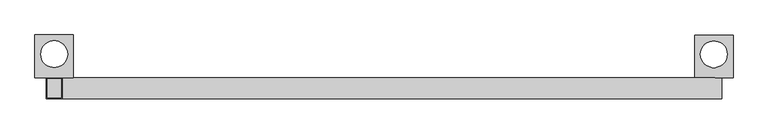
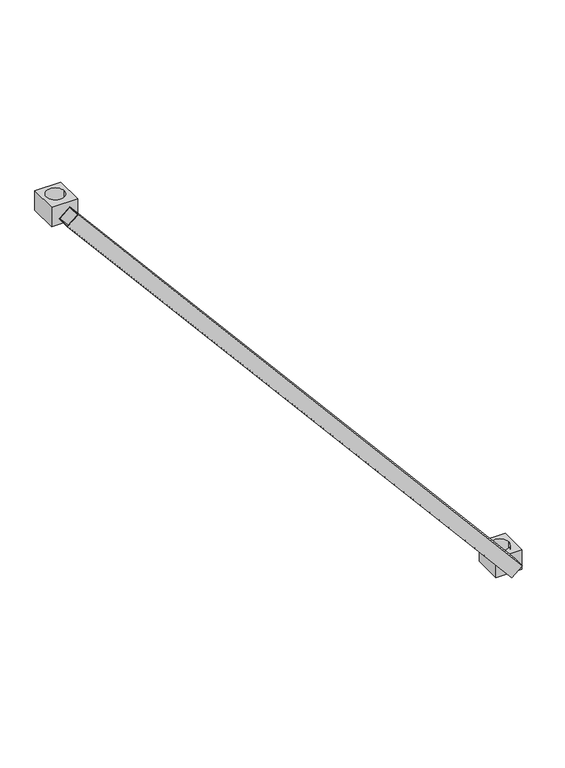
"""IFC4 building model written with IfcOpenShell, lengths in millimetres: proxy geometry, AK_アルバトロスAK伸縮斜材 : H1800×L1200."""

from ifc_helpers import new_model, si_unit, point, frame, frame_2d, origin, place, context, project, spatial, polyline, circle_curve, trimmed, segment, composite_curve, outline, extrude, source, transform, mapped, element, save


def generic_models_91e35777(model_context):
    return source(origin(), model_context, "Body", "SweptSolid", [
        extrude(outline(polyline([(0.0, 0.0), (0.0, -38.0), (-38.0, -38.0), (-38.0, 0.0), (0.0, 0.0)]), holes=[polyline([(-2.0, -2.0), (-36.0, -2.0), (-36.0, -36.0), (-2.0, -36.0), (-2.0, -2.0)])]), frame((14.5168817, 19.0, 12.2580645), z_axis=(-0.6451612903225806, 0.0, 0.7640464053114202), x_axis=(0.7640464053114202, 0.0, 0.6451612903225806)), (0.0, 0.0, 1.0), 1860.0),
        extrude(outline(polyline([(35.0, 96.8842695), (35.0, 19.0), (-35.0, 19.0), (-35.0, 96.8842695), (35.0, 96.8842695)]), holes=[composite_curve([segment(trimmed(circle_curve(frame_2d((0.0, 61.8842695)), 24.3), [point((24.3, 61.8842695))], [point((-24.3, 61.8842695))], True, "CARTESIAN"), True, "CONTINUOUS"), segment(trimmed(circle_curve(frame_2d((0.0, 61.8842695)), 24.3), [point((-24.3, 61.8842695))], [point((24.3, 61.8842695))], True, "CARTESIAN"), True, "CONTINUOUS")], self_intersect=False)]), frame((0.0, 0.0, -27.7559086), z_axis=(0.0, 0.0, 1.0), x_axis=(1.0, 0.0, 0.0)), (0.0, 0.0, 1.0), 55.5118171),
        extrude(outline(polyline([(-1165.0, 19.0), (-1235.0, 19.0), (-1235.0, 96.8842695), (-1165.0, 96.8842695), (-1165.0, 19.0)]), holes=[composite_curve([segment(trimmed(circle_curve(frame_2d((-1200.0, 61.8842695)), 24.3), [point((-1175.7, 61.8842695))], [point((-1224.3, 61.8842695))], True, "CARTESIAN"), True, "CONTINUOUS"), segment(trimmed(circle_curve(frame_2d((-1200.0, 61.8842695)), 24.3), [point((-1224.3, 61.8842695))], [point((-1175.7, 61.8842695))], True, "CARTESIAN"), True, "CONTINUOUS")], self_intersect=False)]), frame((0.0, 0.0, 1393.3704053), z_axis=(0.0, 0.0, 1.0), x_axis=(1.0, 0.0, 0.0)), (0.0, 0.0, 1.0), 55.5118171),
    ])


if __name__ == "__main__":
    model = new_model("IFC4")
    model_context = context("Model", 3, world=origin())
    ifc_project = project(units=[si_unit("LENGTHUNIT", "METRE", prefix="MILLI")], contexts=[model_context])
    site = spatial("IfcSite", under=ifc_project)
    building = spatial("IfcBuilding", under=site)
    placement = place(None, origin())
    generic_models_shape = generic_models_91e35777(model_context)
    element("IfcBuildingElementProxy", 1, Name="AK_アルバトロスAK伸縮斜材 : H1800×L1200", ObjectType="AK_アルバトロスAK伸縮斜材 : H1800×L1200", at=placement, inside=building, context=model_context, shape_type="MappedRepresentation", body=[
        mapped(generic_models_shape, transform((0.0, 0.0, 0.0), x_axis=(1.0, 0.0, 0.0), y_axis=(0.0, 1.0, 0.0), z_axis=(0.0, 0.0, 1.0))),
    ])
    save(model, "model.ifc")
